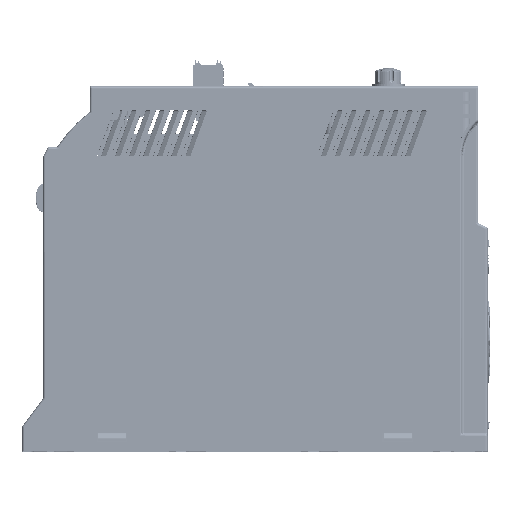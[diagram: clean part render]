
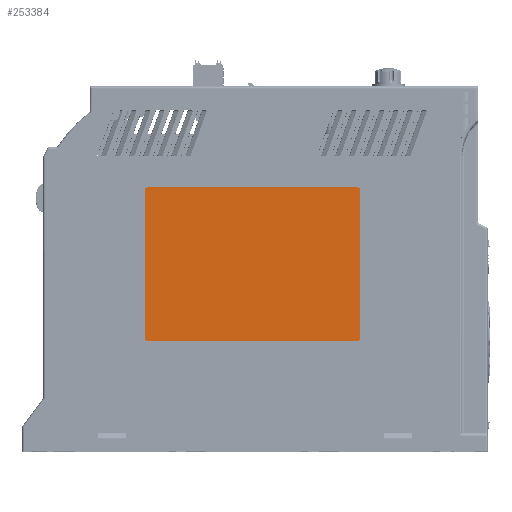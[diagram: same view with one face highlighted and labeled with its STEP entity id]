
A CAD part, top view. The second image highlights one B-rep face of the part: STEP entity #253384.
In plain terms, the highlighted planar face has unit normal (0, 0, 1).
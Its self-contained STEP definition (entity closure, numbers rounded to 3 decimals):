
#3154 = CARTESIAN_POINT ( 'NONE',  ( 15.193, 17.189, 170.16 ) ) ;
#40108 = CARTESIAN_POINT ( 'NONE',  ( -75.807, -46.311, 170.16 ) ) ;
#46371 = AXIS2_PLACEMENT_3D ( 'NONE', #261460, #183346, #339571 ) ;
#52748 = ORIENTED_EDGE ( 'NONE', *, *, #118315, .T. ) ;
#66101 = DIRECTION ( 'NONE',  ( 0., 0., 1. ) ) ;
#79719 = EDGE_CURVE ( 'NONE', #233145, #221158, #385251, .T. ) ;
#85226 = CARTESIAN_POINT ( 'NONE',  ( 15.193, 18.189, 170.16 ) ) ;
#101014 = EDGE_CURVE ( 'NONE', #198957, #233145, #105117, .T. ) ;
#105117 = LINE ( 'NONE', #306979, #489840 ) ;
#109419 = EDGE_LOOP ( 'NONE', ( #52748, #277218, #508733, #423474, #266238, #467521, #149984, #354438 ) ) ;
#118315 = EDGE_CURVE ( 'NONE', #506284, #415103, #433563, .T. ) ;
#119353 = CARTESIAN_POINT ( 'NONE',  ( 15.193, -46.311, 170.16 ) ) ;
#126307 = AXIS2_PLACEMENT_3D ( 'NONE', #318990, #66101, #483113 ) ;
#149984 = ORIENTED_EDGE ( 'NONE', *, *, #438251, .T. ) ;
#174222 = CARTESIAN_POINT ( 'NONE',  ( 16.193, -46.311, 170.16 ) ) ;
#177204 = EDGE_CURVE ( 'NONE', #457113, #207455, #471191, .T. ) ;
#183346 = DIRECTION ( 'NONE',  ( 0., 0., 1. ) ) ;
#184583 = CIRCLE ( 'NONE', #236220, 1. ) ;
#196448 = CARTESIAN_POINT ( 'NONE',  ( 16.193, 17.189, 170.16 ) ) ;
#198957 = VERTEX_POINT ( 'NONE', #174222 ) ;
#199393 = EDGE_CURVE ( 'NONE', #207455, #198957, #184583, .T. ) ;
#202047 = CIRCLE ( 'NONE', #46371, 1. ) ;
#207455 = VERTEX_POINT ( 'NONE', #299865 ) ;
#209740 = EDGE_CURVE ( 'NONE', #271522, #506284, #358386, .T. ) ;
#221121 = VECTOR ( 'NONE', #347891, 1000. ) ;
#221158 = VERTEX_POINT ( 'NONE', #85226 ) ;
#223890 = CARTESIAN_POINT ( 'NONE',  ( -75.807, -46.311, 170.16 ) ) ;
#228010 = PLANE ( 'NONE',  #474203 ) ;
#229621 = LINE ( 'NONE', #517289, #221121 ) ;
#233145 = VERTEX_POINT ( 'NONE', #196448 ) ;
#236220 = AXIS2_PLACEMENT_3D ( 'NONE', #119353, #278241, #520341 ) ;
#253384 = ADVANCED_FACE ( 'NONE', ( #523654 ), #228010, .F. ) ;
#261460 = CARTESIAN_POINT ( 'NONE',  ( -74.807, -46.311, 170.16 ) ) ;
#266238 = ORIENTED_EDGE ( 'NONE', *, *, #101014, .T. ) ;
#271522 = VERTEX_POINT ( 'NONE', #362129 ) ;
#277218 = ORIENTED_EDGE ( 'NONE', *, *, #485962, .T. ) ;
#278241 = DIRECTION ( 'NONE',  ( 0., 0., 1. ) ) ;
#299431 = VECTOR ( 'NONE', #428243, 1000. ) ;
#299865 = CARTESIAN_POINT ( 'NONE',  ( 15.193, -47.311, 170.16 ) ) ;
#306979 = CARTESIAN_POINT ( 'NONE',  ( 16.193, -46.311, 170.16 ) ) ;
#307045 = CARTESIAN_POINT ( 'NONE',  ( -74.807, -47.311, 170.16 ) ) ;
#318990 = CARTESIAN_POINT ( 'NONE',  ( -74.807, 17.189, 170.16 ) ) ;
#339571 = DIRECTION ( 'NONE',  ( 1., 0., 0. ) ) ;
#347891 = DIRECTION ( 'NONE',  ( -1., 0., 0. ) ) ;
#350056 = DIRECTION ( 'NONE',  ( 1., 0., 0. ) ) ;
#354438 = ORIENTED_EDGE ( 'NONE', *, *, #209740, .T. ) ;
#358007 = CARTESIAN_POINT ( 'NONE',  ( -75.807, 17.189, 170.16 ) ) ;
#358386 = CIRCLE ( 'NONE', #126307, 1. ) ;
#359493 = AXIS2_PLACEMENT_3D ( 'NONE', #3154, #457853, #377195 ) ;
#362129 = CARTESIAN_POINT ( 'NONE',  ( -74.807, 18.189, 170.16 ) ) ;
#377195 = DIRECTION ( 'NONE',  ( 1., 0., 0. ) ) ;
#385251 = CIRCLE ( 'NONE', #359493, 1. ) ;
#407929 = DIRECTION ( 'NONE',  ( -1., 0., 0. ) ) ;
#415103 = VERTEX_POINT ( 'NONE', #40108 ) ;
#417450 = VECTOR ( 'NONE', #350056, 1000. ) ;
#423474 = ORIENTED_EDGE ( 'NONE', *, *, #199393, .T. ) ;
#428243 = DIRECTION ( 'NONE',  ( 0., -1., 0. ) ) ;
#433563 = LINE ( 'NONE', #223890, #299431 ) ;
#438251 = EDGE_CURVE ( 'NONE', #221158, #271522, #229621, .T. ) ;
#457113 = VERTEX_POINT ( 'NONE', #508049 ) ;
#457853 = DIRECTION ( 'NONE',  ( 0., 0., 1. ) ) ;
#463186 = DIRECTION ( 'NONE',  ( 0., 1., 0. ) ) ;
#467521 = ORIENTED_EDGE ( 'NONE', *, *, #79719, .T. ) ;
#471191 = LINE ( 'NONE', #307045, #417450 ) ;
#474203 = AXIS2_PLACEMENT_3D ( 'NONE', #488620, #493934, #407929 ) ;
#483113 = DIRECTION ( 'NONE',  ( 1., 0., 0. ) ) ;
#485962 = EDGE_CURVE ( 'NONE', #415103, #457113, #202047, .T. ) ;
#488620 = CARTESIAN_POINT ( 'NONE',  ( -74.807, 17.189, 170.16 ) ) ;
#489840 = VECTOR ( 'NONE', #463186, 1000. ) ;
#493934 = DIRECTION ( 'NONE',  ( 0., 0., -1. ) ) ;
#506284 = VERTEX_POINT ( 'NONE', #358007 ) ;
#508049 = CARTESIAN_POINT ( 'NONE',  ( -74.807, -47.311, 170.16 ) ) ;
#508733 = ORIENTED_EDGE ( 'NONE', *, *, #177204, .T. ) ;
#517289 = CARTESIAN_POINT ( 'NONE',  ( -74.807, 18.189, 170.16 ) ) ;
#520341 = DIRECTION ( 'NONE',  ( 1., 0., 0. ) ) ;
#523654 = FACE_OUTER_BOUND ( 'NONE', #109419, .T. ) ;
